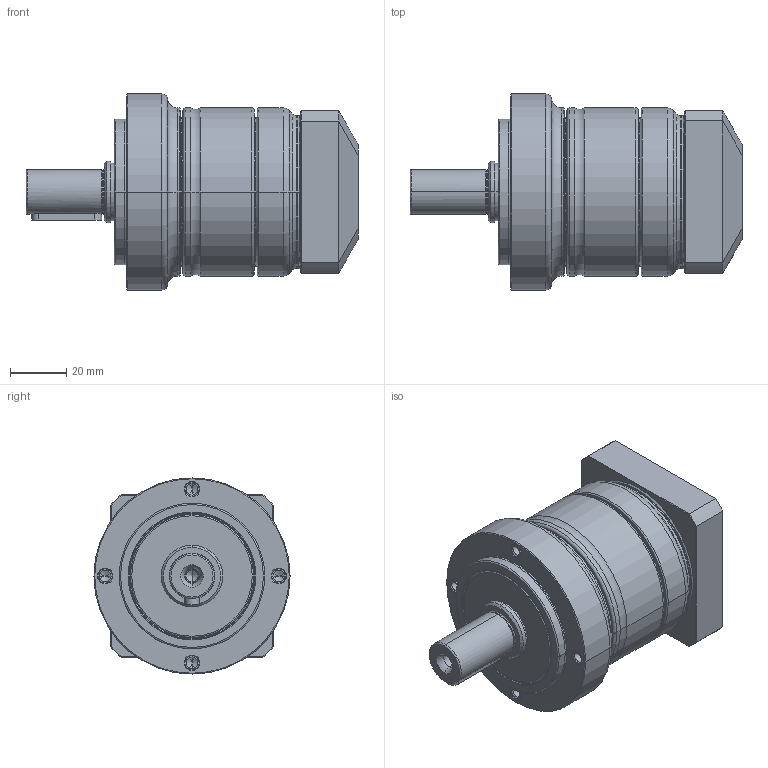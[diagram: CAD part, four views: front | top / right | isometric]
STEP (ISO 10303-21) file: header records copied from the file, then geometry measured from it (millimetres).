
FILE_DESCRIPTION((''),'2;1');
FILE_NAME('PE2-070_1ST_8-P0411100101_ASM','2016-04-20T',('d00435'),(''),'PRO/ENGINEER BY PARAMETRIC TECHNOLOGY CORPORATION, 2008410','PRO/ENGINEER BY PARAMETRIC TECHNOLOGY CORPORATION, 2008410','');
FILE_SCHEMA(('CONFIG_CONTROL_DESIGN'));
Length unit declared in the file: millimetre
Products named in the file (9): P1323210001; P0250200001; P1324200001; P0350201001; P0941200001; P0503100005; P0411100101; P1702300001; PE2-070_1ST_8-P0411100101_ASM
Assembly tree (8 placements, depth 2):
  PE2-070_1ST_8-P0411100101_ASM
    P1323210001
    P0250200001
    P1324200001
    P0350201001
    P0941200001
    P0503100005
    P0411100101
    P1702300001
Bounding box: 118.5 x 70 x 70 mm (x, y, z)
Volume: 226205 mm3; surface area: 68496.8 mm2
Topology: 8 solids, 22 shells, 511 faces, 1162 edges, 694 vertices
Faces by surface type: cylinder 164, cone 134, torus 102, plane 95, bspline 16
Entity records: 19564 total; most frequent: CARTESIAN_POINT 7724, DIRECTION 2711, ORIENTED_EDGE 2212, AXIS2_PLACEMENT_3D 1176, EDGE_CURVE 1134, VERTEX_POINT 694, CIRCLE 654, EDGE_LOOP 590
